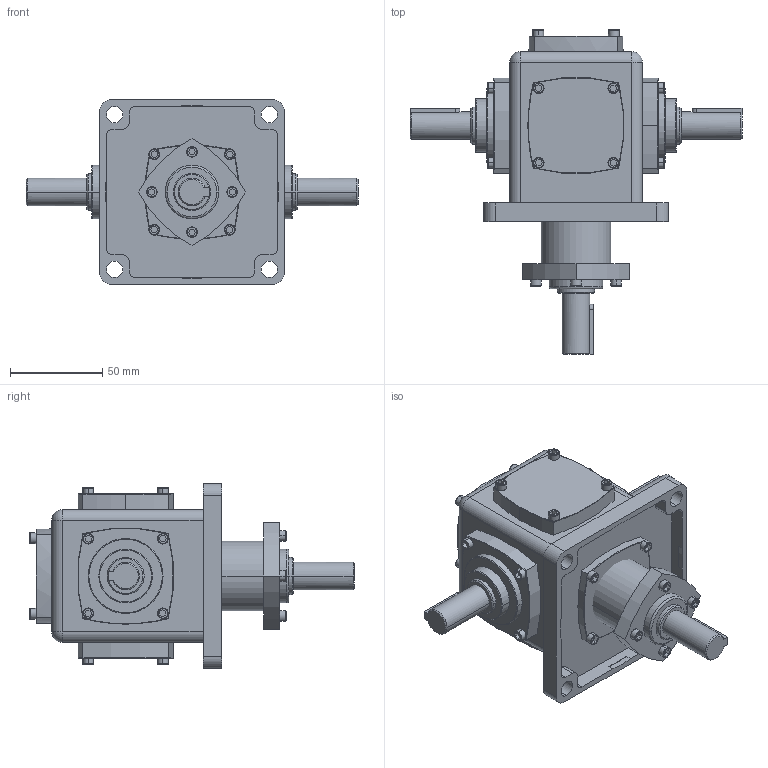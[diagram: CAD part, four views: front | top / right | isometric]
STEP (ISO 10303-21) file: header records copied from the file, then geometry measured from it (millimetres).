
FILE_DESCRIPTION (( 'STEP AP214' ), '1' );
FILE_NAME ('T2-1：1-D-LRO-B3.step', '2023-06-16T00:53:43', ( 'Windows 用户' ), ( '' ), 'SwSTEP 2.0', 'SolidWorks 2016', '' );
FILE_SCHEMA (( 'AUTOMOTIVE_DESIGN' ));
Length unit declared in the file: millimetre
Products named in the file (1): T2-1：1-D-LRO-B3
Bounding box: 180 x 176 x 100 mm (x, y, z)
Volume: 665779.2 mm3; surface area: 82639 mm2
Topology: 4 solids, 4 shells, 1485 faces, 3862 edges, 2530 vertices
Faces by surface type: plane 904, bspline 322, cylinder 154, torus 91, cone 10, sphere 4
Entity records: 61192 total; most frequent: CARTESIAN_POINT 26248, ORIENTED_EDGE 7716, DIRECTION 6019, EDGE_CURVE 3858, VECTOR 2673, LINE 2673, VERTEX_POINT 2530, AXIS2_PLACEMENT_3D 1673
